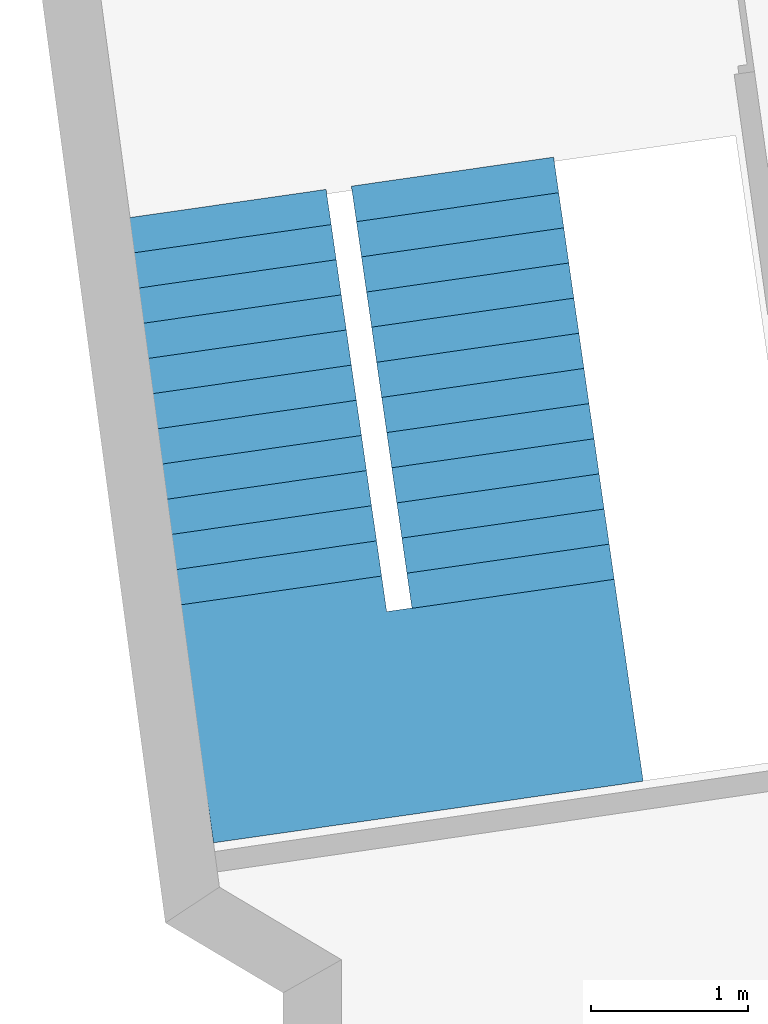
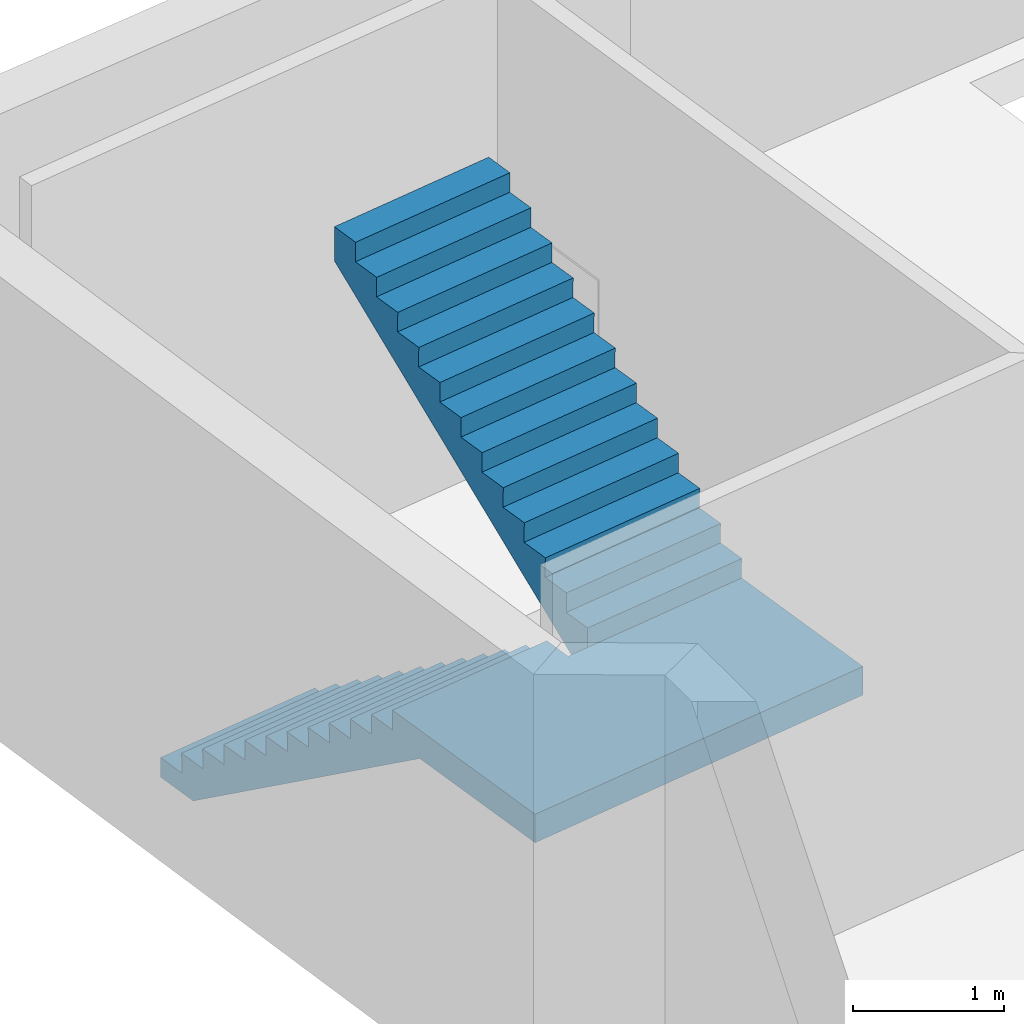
# One storey, part 8 of 9: 1 stair.
"""IFC2X3 building model written with IfcOpenShell, lengths in metres."""

import ifcopenshell
import ifcopenshell.guid

model = None  # the IFC model being written
_history = None  # IfcOwnerHistory: only IFC2X3 demands one
_inside = {}  # id of a spatial element -> (the spatial element, [elements in it])
_under = {}  # id of a project, library or spatial element -> (it, [spatial elements below it])
_declared = {}  # id of a project -> (the project, [libraries it declares])
_typed = {}  # id of a type object -> (the type object, [elements of that type])
_made_of = {}  # id of a material, layer set ... -> (it, [elements and type objects made of it])


def new_model(schema):
    """Start an empty IFC model of exactly this schema.

    Asked for "IFC4X3", IfcOpenShell would pick the latest addendum, in which some entities
    have other attributes; the version numbers below select the first issue.
    IFC2X3 requires an IfcOwnerHistory on every rooted entity: one is made here for all.
    """
    global model, _history
    if schema == "IFC4X3":
        model = ifcopenshell.file(schema_version=(4, 3, 0, 0))
    else:
        model = ifcopenshell.file(schema=schema)
    _inside.clear()
    _under.clear()
    _declared.clear()
    _typed.clear()
    _made_of.clear()
    _history = None
    if model.schema == "IFC2X3":
        org = make("IfcOrganization", Name="unknown")
        user = make(
            "IfcPersonAndOrganization",
            ThePerson=make("IfcPerson", FamilyName="unknown"),
            TheOrganization=org,
        )
        app = make(
            "IfcApplication",
            ApplicationDeveloper=org,
            Version="unknown",
            ApplicationFullName="unknown",
            ApplicationIdentifier="unknown",
        )
        _history = make(
            "IfcOwnerHistory",
            OwningUser=user,
            OwningApplication=app,
            ChangeAction="ADDED",
            CreationDate=0,
        )
    return model


def make(cls, **values):
    """One entity of the class cls with the attributes given. An attribute that is None is left unset."""
    return model.create_entity(
        cls, **{name: value for name, value in values.items() if value is not None}
    )


def entity(cls, *values):
    """Any entity or typed value of the class cls, its attributes in the order of the schema. None: left unset."""
    e = model.create_entity(cls)
    for i, value in enumerate(values):
        if value is not None:
            e[i] = value
    return e


def rooted(cls, **values):
    """An entity with a GlobalId (a new one), such as an element, a storey or a relation."""
    return make(cls, GlobalId=ifcopenshell.guid.new(), OwnerHistory=_history, **values)


def si_unit(unit_type, name, prefix=None):
    """IfcSIUnit, for example si_unit("LENGTHUNIT", "METRE", prefix="MILLI")."""
    return make("IfcSIUnit", UnitType=unit_type, Prefix=prefix, Name=name)


def converted_unit(unit_type, name, factor, base, dimensions=None, offset=None):
    """IfcConversionBasedUnit, such as the inch: factor (a typed value) times the base unit."""
    return make(
        "IfcConversionBasedUnit"
        if offset is None
        else "IfcConversionBasedUnitWithOffset",
        ConversionOffset=offset,
        Dimensions=None
        if dimensions is None
        else entity("IfcDimensionalExponents", *dimensions),
        UnitType=unit_type,
        Name=name,
        ConversionFactor=make(
            "IfcMeasureWithUnit", ValueComponent=factor, UnitComponent=base
        ),
    )


def money_unit(currency):
    """IfcMonetaryUnit."""
    return make("IfcMonetaryUnit", Currency=currency)


def assignment(units):
    """IfcUnitAssignment: the units of a project."""
    return None if units is None else make("IfcUnitAssignment", Units=units)


def point(xyz):
    """IfcCartesianPoint."""
    return None if xyz is None else make("IfcCartesianPoint", Coordinates=xyz)


def direction(xyz):
    """IfcDirection."""
    return None if xyz is None else make("IfcDirection", DirectionRatios=xyz)


def frame(location, z_axis=None, x_axis=None):
    """IfcAxis2Placement3D, a coordinate frame: its origin and axes. An axis left out is left unset."""
    return make(
        "IfcAxis2Placement3D",
        Location=point(location),
        Axis=direction(z_axis),
        RefDirection=direction(x_axis),
    )


def origin_with_axes():
    """The frame at (0, 0, 0) with the z axis (0, 0, 1) and the x axis (1, 0, 0) written out."""
    return frame((0.0, 0.0, 0.0), z_axis=(0.0, 0.0, 1.0), x_axis=(1.0, 0.0, 0.0))


def place(relative_to, where):
    """IfcLocalPlacement: puts the frame where relative to a parent placement (None: the world)."""
    return make(
        "IfcLocalPlacement", PlacementRelTo=relative_to, RelativePlacement=where
    )


def context(
    kind, dimensions, precision=None, world=None, true_north=None, identifier=None
):
    """IfcGeometricRepresentationContext, for example the 3D "Model" context."""
    return make(
        "IfcGeometricRepresentationContext",
        ContextIdentifier=identifier,
        ContextType=kind,
        CoordinateSpaceDimension=dimensions,
        Precision=precision,
        WorldCoordinateSystem=world,
        TrueNorth=true_north,
    )


def subcontext(parent, identifier, kind, view, scale=None):
    """IfcGeometricRepresentationSubContext, for example "Body" below "Model"."""
    return make(
        "IfcGeometricRepresentationSubContext",
        ContextIdentifier=identifier,
        ContextType=kind,
        ParentContext=parent,
        TargetScale=scale,
        TargetView=view,
    )


def project(units=None, contexts=None):
    """IfcProject with its units and contexts."""
    return rooted(
        "IfcProject",
        Name="project",
        RepresentationContexts=contexts,
        UnitsInContext=assignment(units),
    )


def spatial(cls, under=None, at=None, **own):
    """A site, building, storey or space (cls), placed at a placement, below another one or the project."""
    s = rooted(cls, ObjectPlacement=at, **own)
    if under is not None:
        _under.setdefault(under.id(), (under, []))[1].append(s)
    return s


def faces_of(points, faces, orient=None, outer=None):
    """IfcFace entities. A face is a list of loops; a loop is a list of indices into points, from 0.

    orient and outer hold one flag for each loop. By default every Orientation is true, the
    first loop of a face is its IfcFaceOuterBound and the others are IfcFaceBound.
    """
    made = []
    for i, loops in enumerate(faces):
        bounds = []
        for j, loop in enumerate(loops):
            is_outer = j == 0 if outer is None else outer[i][j]
            bounds.append(
                make(
                    "IfcFaceOuterBound" if is_outer else "IfcFaceBound",
                    Bound=make("IfcPolyLoop", Polygon=[points[k] for k in loop]),
                    Orientation=True if orient is None else orient[i][j],
                )
            )
        made.append(make("IfcFace", Bounds=bounds))
    return made


def faceted_brep(points, faces, orient=None, outer=None, voids=None):
    """IfcFacetedBrep: a solid bounded by flat faces; with voids (closed shells), ...WithVoids."""
    shared = [point(p) for p in points]
    hull = make("IfcClosedShell", CfsFaces=faces_of(shared, faces, orient, outer))
    if voids is None:
        return make("IfcFacetedBrep", Outer=hull)
    return make(
        "IfcFacetedBrepWithVoids",
        Outer=hull,
        Voids=[
            make(cls, CfsFaces=faces_of(shared, fs, o, b)) for cls, fs, o, b in voids
        ],
    )


def shape(context_of_items, identifier, shape_type, items):
    """IfcShapeRepresentation: the items that make up one representation, for example the "Body"."""
    return make(
        "IfcShapeRepresentation",
        ContextOfItems=context_of_items,
        RepresentationIdentifier=identifier,
        RepresentationType=shape_type,
        Items=items,
    )


def material(Name=None, Category=None):
    """IfcMaterial."""
    return make("IfcMaterial", Name=Name, Category=Category)


def made_of(thing, what):
    """Note that an element or type object is made of a material, layer set ...; save() writes the relation."""
    if what is not None:
        _made_of.setdefault(what.id(), (what, []))[1].append(thing)
    return thing


def element(
    cls,
    number,
    at=None,
    inside=None,
    cuts=None,
    type_object=None,
    material=None,
    context=None,
    identifier="Body",
    shape_type=None,
    held_by="IfcProductDefinitionShape",
    body=None,
    shapes=None,
    **own,
):
    """One element of the class cls, such as IfcWall. Its Tag is "e" and its number.

    at: its placement. inside: the storey or other place that contains it. cuts: it is an
    opening in that element (IfcRelVoidsElement). A single representation is given by context,
    identifier, shape_type and body (its items); several are given by shapes. held_by: the class
    of the entity that holds the representations. save() writes the other relations.
    """
    e = rooted(cls, Tag="e%d" % number, ObjectPlacement=at, **own)
    if body is not None:
        shapes = [shape(context, identifier, shape_type, body)]
    if shapes is not None:
        e.Representation = make(held_by, Representations=shapes)
    if inside is not None:
        _inside.setdefault(inside.id(), (inside, []))[1].append(e)
    if cuts is not None:
        rooted(
            "IfcRelVoidsElement", RelatingBuildingElement=cuts, RelatedOpeningElement=e
        )
    if type_object is not None:
        _typed.setdefault(type_object.id(), (type_object, []))[1].append(e)
    return made_of(e, material)


def aggregate(whole, parts):
    """IfcRelAggregates: a whole, such as a stair, and the parts it consists of."""
    return rooted("IfcRelAggregates", RelatingObject=whole, RelatedObjects=parts)


def save(model, path):
    """Write the relations noted so far, then the file.

    IfcRelAggregates (storeys below a building ...), IfcRelContainedInSpatialStructure (elements
    in a storey), IfcRelDefinesByType, IfcRelAssociatesMaterial and IfcRelDeclares: one each for
    every whole, place, type object, material and project.
    """
    for whole, parts in _under.values():
        aggregate(whole, parts)
    for where, things in _inside.values():
        rooted(
            "IfcRelContainedInSpatialStructure",
            RelatedElements=things,
            RelatingStructure=where,
        )
    for kind, things in _typed.values():
        rooted("IfcRelDefinesByType", RelatedObjects=things, RelatingType=kind)
    for what, things in _made_of.values():
        rooted("IfcRelAssociatesMaterial", RelatedObjects=things, RelatingMaterial=what)
    for by, libraries in _declared.values():
        rooted("IfcRelDeclares", RelatingContext=by, RelatedDefinitions=libraries)
    model.write(path)


model = new_model("IFC2X3")

# Units and contexts
model_context = context("Model", 3, precision=1e-05, world=origin_with_axes(), true_north=direction((0.0, 1.0)))
body_context = subcontext(model_context, "Body", "Model", "MODEL_VIEW")
ifc_project = project(units=[si_unit("LENGTHUNIT", "METRE"), si_unit("AREAUNIT", "SQUARE_METRE"), si_unit("VOLUMEUNIT", "CUBIC_METRE"), converted_unit("PLANEANGLEUNIT", "DEGREE", entity("IfcPlaneAngleMeasure", 0.0174532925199), si_unit("PLANEANGLEUNIT", "RADIAN"), dimensions=[0, 0, 0, 0, 0, 0, 0]), si_unit("SOLIDANGLEUNIT", "STERADIAN"), money_unit("EUR"), converted_unit("TIMEUNIT", "Year", entity("IfcTimeMeasure", 31556926.0), si_unit("TIMEUNIT", "SECOND"), dimensions=[0, 0, 0, 0, 0, 0, 0]), si_unit("MASSUNIT", "GRAM"), si_unit("THERMODYNAMICTEMPERATUREUNIT", "DEGREE_CELSIUS"), si_unit("LUMINOUSINTENSITYUNIT", "LUMEN")], contexts=[model_context])

# Site, building, storey
site_placement = place(None, origin_with_axes())
site = spatial("IfcSite", under=ifc_project, at=site_placement, Name="Undefined", CompositionType="ELEMENT")
building_placement = place(site_placement, origin_with_axes())
building = spatial("IfcBuilding", under=site, at=building_placement, Name="Undefined", CompositionType="ELEMENT")
storey_placement = place(building_placement, frame((0.0, 0.0, 13.45), z_axis=(0.0, 0.0, 1.0), x_axis=(1.0, 0.0, 0.0)))
storey = spatial("IfcBuildingStorey", under=building, at=storey_placement, Name="R+2", CompositionType="ELEMENT", Elevation=13.45)

# Stair
ifc_material = material(Name="Concrete Block")
stair_placement = place(storey_placement, frame((-1.38089637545, 23.3565313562, 0.0), z_axis=(0.0, 0.0, 1.0), x_axis=(0.142095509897, -0.989852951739, 0.0)))
element("IfcStair", 1, at=stair_placement, inside=storey, material=ifc_material, Name="Stair_01", ObjectType="STAIR", ShapeType="NOTDEFINED", context=body_context, shape_type="Brep", body=[
    faceted_brep([(0.347393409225, 0.0, 0.0), (0.347393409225, 1.29732646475, 0.0), (2.76888631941, 1.29732646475, 1.675), (2.76888631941, 0.0, 1.675), (0.02, 0.0, 0.0), (0.02, 1.29732646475, 0.0), (0.02, 1.29732646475, 0.12875), (0.245461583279, 1.29732646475, 0.12875), (0.245461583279, 1.29732646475, 0.2875), (0.470923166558, 1.29732646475, 0.2875), (0.470923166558, 1.29732646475, 0.44625), (0.696384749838, 1.29732646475, 0.44625), (0.696384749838, 1.29732646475, 0.605), (0.921846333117, 1.29732646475, 0.605), (0.921846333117, 1.29732646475, 0.76375), (1.1473079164, 1.29732646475, 0.76375), (1.1473079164, 1.29732646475, 0.9225), (1.37276949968, 1.29732646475, 0.9225), (1.37276949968, 1.29732646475, 1.08125), (1.59823108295, 1.29732646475, 1.08125), (1.59823108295, 1.29732646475, 1.24), (1.82369266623, 1.29732646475, 1.24), (1.82369266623, 1.29732646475, 1.39875), (2.04915424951, 1.29732646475, 1.39875), (2.04915424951, 1.29732646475, 1.5575), (2.27461583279, 1.29732646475, 1.5575), (2.27461583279, 1.29732646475, 1.71625), (2.50007741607, 1.29732646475, 1.71625), (2.50007741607, 1.29732646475, 1.875), (2.72553899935, 1.29732646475, 1.875), (4.0028654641, 1.29732646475, 1.875), (4.0028654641, 1.29732646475, 1.675), (4.0028654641, 0.0, 1.675), (4.0028654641, 0.0, 1.875), (2.72553899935, 0.0, 1.875), (2.50007741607, 0.0, 1.875), (2.50007741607, 0.0, 1.71625), (2.27461583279, 0.0, 1.71625), (2.27461583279, 0.0, 1.5575), (2.04915424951, 0.0, 1.5575), (2.04915424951, 0.0, 1.39875), (1.82369266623, 0.0, 1.39875), (1.82369266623, 0.0, 1.24), (1.59823108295, 0.0, 1.24), (1.59823108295, 0.0, 1.08125), (1.37276949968, 0.0, 1.08125), (1.37276949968, 0.0, 0.9225), (1.1473079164, 0.0, 0.9225), (1.1473079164, 0.0, 0.76375), (0.921846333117, 0.0, 0.76375), (0.921846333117, 0.0, 0.605), (0.696384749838, 0.0, 0.605), (0.696384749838, 0.0, 0.44625), (0.470923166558, 0.0, 0.44625), (0.470923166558, 0.0, 0.2875), (0.245461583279, 0.0, 0.2875), (0.245461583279, 0.0, 0.12875), (0.02, 0.0, 0.12875)], [[[0, 1, 2, 3]], [[4, 5, 1, 0]], [[1, 5, 6, 7, 8, 9, 10, 11, 12, 13, 14, 15, 16, 17, 18, 19, 20, 21, 22, 23, 24, 25, 26, 27, 28, 29, 30, 31, 2]], [[3, 2, 31, 32]], [[0, 3, 32, 33, 34, 35, 36, 37, 38, 39, 40, 41, 42, 43, 44, 45, 46, 47, 48, 49, 50, 51, 52, 53, 54, 55, 56, 57, 4]], [[57, 6, 5, 4]], [[56, 7, 6, 57]], [[55, 8, 7, 56]], [[54, 9, 8, 55]], [[53, 10, 9, 54]], [[52, 11, 10, 53]], [[51, 12, 11, 52]], [[50, 13, 12, 51]], [[49, 14, 13, 50]], [[48, 15, 14, 49]], [[47, 16, 15, 48]], [[46, 17, 16, 47]], [[45, 18, 17, 46]], [[44, 19, 18, 45]], [[43, 20, 19, 44]], [[42, 21, 20, 43]], [[41, 22, 21, 42]], [[40, 23, 22, 41]], [[39, 24, 23, 40]], [[38, 25, 24, 39]], [[37, 26, 25, 38]], [[36, 27, 26, 37]], [[35, 28, 27, 36]], [[34, 29, 28, 35]], [[33, 30, 29, 34]], [[32, 31, 30, 33]]]),
    faceted_brep([(2.70553899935, 1.29732646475, 1.875), (2.70553899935, 1.45900763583, 1.875), (2.70553899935, 1.45900763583, 1.675), (2.70553899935, 1.29732646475, 1.675), (4.0028654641, 1.29732646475, 1.875), (4.0028654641, 1.45900763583, 1.875), (4.0028654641, 1.45900763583, 1.675), (2.76888631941, 1.45900763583, 1.675), (2.76888631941, 1.29732646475, 1.675), (4.0028654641, 1.29732646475, 1.675)], [[[0, 1, 2, 3]], [[4, 5, 1, 0]], [[1, 5, 6, 7, 2]], [[3, 2, 7, 8]], [[0, 3, 8, 9, 4]], [[9, 6, 5, 4]], [[8, 7, 6, 9]]]),
    faceted_brep([(2.70553899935, 1.45900763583, 1.875), (2.70553899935, 2.75633410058, 1.875), (2.70553899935, 2.75633410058, 1.675), (2.70553899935, 1.45900763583, 1.675), (4.0028654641, 1.45900763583, 1.875), (4.0028654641, 2.75633410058, 1.875), (4.0028654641, 2.75633410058, 1.675), (4.0028654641, 1.45900763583, 1.675)], [[[0, 1, 2, 3]], [[4, 5, 1, 0]], [[1, 5, 6, 2]], [[3, 2, 6, 7]], [[0, 3, 7, 4]], [[7, 6, 5, 4]]]),
    faceted_brep([(2.70553899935, 1.45900763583, 1.675), (2.6421916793, 1.45900763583, 1.675), (2.6421916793, 2.75633410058, 1.675), (2.70553899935, 2.75633410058, 1.675), (2.70553899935, 1.45900763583, 1.875), (2.68553899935, 1.45900763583, 1.875), (2.68553899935, 1.45900763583, 2.03375), (2.46007741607, 1.45900763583, 2.03375), (2.46007741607, 1.45900763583, 2.1925), (2.23461583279, 1.45900763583, 2.1925), (2.23461583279, 1.45900763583, 2.35125), (2.00915424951, 1.45900763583, 2.35125), (2.00915424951, 1.45900763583, 2.51), (1.78369266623, 1.45900763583, 2.51), (1.78369266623, 1.45900763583, 2.66875), (1.55823108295, 1.45900763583, 2.66875), (1.55823108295, 1.45900763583, 2.8275), (1.33276949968, 1.45900763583, 2.8275), (1.33276949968, 1.45900763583, 2.98625), (1.1073079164, 1.45900763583, 2.98625), (1.1073079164, 1.45900763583, 3.145), (0.881846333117, 1.45900763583, 3.145), (0.881846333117, 1.45900763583, 3.30375), (0.656384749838, 1.45900763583, 3.30375), (0.656384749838, 1.45900763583, 3.4625), (0.430923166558, 1.45900763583, 3.4625), (0.430923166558, 1.45900763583, 3.62125), (0.205461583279, 1.45900763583, 3.62125), (0.205461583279, 1.45900763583, 3.78), (0.0, 1.45900763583, 3.78), (0.0, 1.45900763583, 3.53539644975), (0.0, 2.75633410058, 3.53539644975), (0.0, 2.75633410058, 3.78), (0.205461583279, 2.75633410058, 3.78), (0.205461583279, 2.75633410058, 3.62125), (0.430923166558, 2.75633410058, 3.62125), (0.430923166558, 2.75633410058, 3.4625), (0.656384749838, 2.75633410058, 3.4625), (0.656384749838, 2.75633410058, 3.30375), (0.881846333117, 2.75633410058, 3.30375), (0.881846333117, 2.75633410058, 3.145), (1.1073079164, 2.75633410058, 3.145), (1.1073079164, 2.75633410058, 2.98625), (1.33276949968, 2.75633410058, 2.98625), (1.33276949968, 2.75633410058, 2.8275), (1.55823108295, 2.75633410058, 2.8275), (1.55823108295, 2.75633410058, 2.66875), (1.78369266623, 2.75633410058, 2.66875), (1.78369266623, 2.75633410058, 2.51), (2.00915424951, 2.75633410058, 2.51), (2.00915424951, 2.75633410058, 2.35125), (2.23461583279, 2.75633410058, 2.35125), (2.23461583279, 2.75633410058, 2.1925), (2.46007741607, 2.75633410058, 2.1925), (2.46007741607, 2.75633410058, 2.03375), (2.68553899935, 2.75633410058, 2.03375), (2.68553899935, 2.75633410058, 1.875), (2.70553899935, 2.75633410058, 1.875)], [[[0, 1, 2, 3]], [[0, 4, 5, 6, 7, 8, 9, 10, 11, 12, 13, 14, 15, 16, 17, 18, 19, 20, 21, 22, 23, 24, 25, 26, 27, 28, 29, 30, 1]], [[1, 30, 31, 2]], [[3, 2, 31, 32, 33, 34, 35, 36, 37, 38, 39, 40, 41, 42, 43, 44, 45, 46, 47, 48, 49, 50, 51, 52, 53, 54, 55, 56, 57]], [[4, 0, 3, 57]], [[5, 4, 57, 56]], [[6, 5, 56, 55]], [[7, 6, 55, 54]], [[8, 7, 54, 53]], [[9, 8, 53, 52]], [[10, 9, 52, 51]], [[11, 10, 51, 50]], [[12, 11, 50, 49]], [[13, 12, 49, 48]], [[14, 13, 48, 47]], [[15, 14, 47, 46]], [[16, 15, 46, 45]], [[17, 16, 45, 44]], [[18, 17, 44, 43]], [[19, 18, 43, 42]], [[20, 19, 42, 41]], [[21, 20, 41, 40]], [[22, 21, 40, 39]], [[23, 22, 39, 38]], [[24, 23, 38, 37]], [[25, 24, 37, 36]], [[26, 25, 36, 35]], [[27, 26, 35, 34]], [[28, 27, 34, 33]], [[29, 28, 33, 32]], [[30, 29, 32, 31]]]),
    faceted_brep([(0.0, 0.0, 0.0), (0.0, 1.29732646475, 0.0), (0.02, 1.29732646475, 0.0), (0.02, 0.0, 0.0), (0.0, 0.0, 0.12875), (0.0, 1.29732646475, 0.12875), (0.02, 1.29732646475, 0.12875), (0.02, 0.0, 0.12875)], [[[0, 1, 2, 3]], [[4, 5, 1, 0]], [[1, 5, 6, 2]], [[3, 2, 6, 7]], [[0, 3, 7, 4]], [[7, 6, 5, 4]]]),
    faceted_brep([(0.225461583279, 0.0, 0.15875), (0.225461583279, 1.29732646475, 0.15875), (0.245461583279, 1.29732646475, 0.15875), (0.245461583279, 0.0, 0.15875), (0.225461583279, 0.0, 0.2875), (0.225461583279, 1.29732646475, 0.2875), (0.245461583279, 1.29732646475, 0.2875), (0.245461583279, 0.0, 0.2875)], [[[0, 1, 2, 3]], [[4, 5, 1, 0]], [[1, 5, 6, 2]], [[3, 2, 6, 7]], [[0, 3, 7, 4]], [[7, 6, 5, 4]]]),
    faceted_brep([(0.450923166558, 0.0, 0.3175), (0.450923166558, 1.29732646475, 0.3175), (0.470923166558, 1.29732646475, 0.3175), (0.470923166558, 0.0, 0.3175), (0.450923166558, 0.0, 0.44625), (0.450923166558, 1.29732646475, 0.44625), (0.470923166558, 1.29732646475, 0.44625), (0.470923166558, 0.0, 0.44625)], [[[0, 1, 2, 3]], [[4, 5, 1, 0]], [[1, 5, 6, 2]], [[3, 2, 6, 7]], [[0, 3, 7, 4]], [[7, 6, 5, 4]]]),
    faceted_brep([(0.676384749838, 0.0, 0.47625), (0.676384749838, 1.29732646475, 0.47625), (0.696384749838, 1.29732646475, 0.47625), (0.696384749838, 0.0, 0.47625), (0.676384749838, 0.0, 0.605), (0.676384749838, 1.29732646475, 0.605), (0.696384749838, 1.29732646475, 0.605), (0.696384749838, 0.0, 0.605)], [[[0, 1, 2, 3]], [[4, 5, 1, 0]], [[1, 5, 6, 2]], [[3, 2, 6, 7]], [[0, 3, 7, 4]], [[7, 6, 5, 4]]]),
    faceted_brep([(0.901846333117, 0.0, 0.635), (0.901846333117, 1.29732646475, 0.635), (0.921846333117, 1.29732646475, 0.635), (0.921846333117, 0.0, 0.635), (0.901846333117, 0.0, 0.76375), (0.901846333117, 1.29732646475, 0.76375), (0.921846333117, 1.29732646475, 0.76375), (0.921846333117, 0.0, 0.76375)], [[[0, 1, 2, 3]], [[4, 5, 1, 0]], [[1, 5, 6, 2]], [[3, 2, 6, 7]], [[0, 3, 7, 4]], [[7, 6, 5, 4]]]),
    faceted_brep([(1.1273079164, 0.0, 0.79375), (1.1273079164, 1.29732646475, 0.79375), (1.1473079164, 1.29732646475, 0.79375), (1.1473079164, 0.0, 0.79375), (1.1273079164, 0.0, 0.9225), (1.1273079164, 1.29732646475, 0.9225), (1.1473079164, 1.29732646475, 0.9225), (1.1473079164, 0.0, 0.9225)], [[[0, 1, 2, 3]], [[4, 5, 1, 0]], [[1, 5, 6, 2]], [[3, 2, 6, 7]], [[0, 3, 7, 4]], [[7, 6, 5, 4]]]),
    faceted_brep([(1.35276949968, 0.0, 0.9525), (1.35276949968, 1.29732646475, 0.9525), (1.37276949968, 1.29732646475, 0.9525), (1.37276949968, 0.0, 0.9525), (1.35276949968, 0.0, 1.08125), (1.35276949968, 1.29732646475, 1.08125), (1.37276949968, 1.29732646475, 1.08125), (1.37276949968, 0.0, 1.08125)], [[[0, 1, 2, 3]], [[4, 5, 1, 0]], [[1, 5, 6, 2]], [[3, 2, 6, 7]], [[0, 3, 7, 4]], [[7, 6, 5, 4]]]),
    faceted_brep([(1.57823108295, 0.0, 1.11125), (1.57823108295, 1.29732646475, 1.11125), (1.59823108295, 1.29732646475, 1.11125), (1.59823108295, 0.0, 1.11125), (1.57823108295, 0.0, 1.24), (1.57823108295, 1.29732646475, 1.24), (1.59823108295, 1.29732646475, 1.24), (1.59823108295, 0.0, 1.24)], [[[0, 1, 2, 3]], [[4, 5, 1, 0]], [[1, 5, 6, 2]], [[3, 2, 6, 7]], [[0, 3, 7, 4]], [[7, 6, 5, 4]]]),
    faceted_brep([(1.80369266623, 0.0, 1.27), (1.80369266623, 1.29732646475, 1.27), (1.82369266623, 1.29732646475, 1.27), (1.82369266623, 0.0, 1.27), (1.80369266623, 0.0, 1.39875), (1.80369266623, 1.29732646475, 1.39875), (1.82369266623, 1.29732646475, 1.39875), (1.82369266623, 0.0, 1.39875)], [[[0, 1, 2, 3]], [[4, 5, 1, 0]], [[1, 5, 6, 2]], [[3, 2, 6, 7]], [[0, 3, 7, 4]], [[7, 6, 5, 4]]]),
    faceted_brep([(2.02915424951, 0.0, 1.42875), (2.02915424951, 1.29732646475, 1.42875), (2.04915424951, 1.29732646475, 1.42875), (2.04915424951, 0.0, 1.42875), (2.02915424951, 0.0, 1.5575), (2.02915424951, 1.29732646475, 1.5575), (2.04915424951, 1.29732646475, 1.5575), (2.04915424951, 0.0, 1.5575)], [[[0, 1, 2, 3]], [[4, 5, 1, 0]], [[1, 5, 6, 2]], [[3, 2, 6, 7]], [[0, 3, 7, 4]], [[7, 6, 5, 4]]]),
    faceted_brep([(2.25461583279, 0.0, 1.5875), (2.25461583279, 1.29732646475, 1.5875), (2.27461583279, 1.29732646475, 1.5875), (2.27461583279, 0.0, 1.5875), (2.25461583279, 0.0, 1.71625), (2.25461583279, 1.29732646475, 1.71625), (2.27461583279, 1.29732646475, 1.71625), (2.27461583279, 0.0, 1.71625)], [[[0, 1, 2, 3]], [[4, 5, 1, 0]], [[1, 5, 6, 2]], [[3, 2, 6, 7]], [[0, 3, 7, 4]], [[7, 6, 5, 4]]]),
    faceted_brep([(2.48007741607, 0.0, 1.74625), (2.48007741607, 1.29732646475, 1.74625), (2.50007741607, 1.29732646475, 1.74625), (2.50007741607, 0.0, 1.74625), (2.48007741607, 0.0, 1.875), (2.48007741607, 1.29732646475, 1.875), (2.50007741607, 1.29732646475, 1.875), (2.50007741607, 0.0, 1.875)], [[[0, 1, 2, 3]], [[4, 5, 1, 0]], [[1, 5, 6, 2]], [[3, 2, 6, 7]], [[0, 3, 7, 4]], [[7, 6, 5, 4]]]),
    faceted_brep([(2.70553899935, 1.45900763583, 1.905), (2.68553899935, 1.45900763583, 1.905), (2.68553899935, 2.75633410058, 1.905), (2.70553899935, 2.75633410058, 1.905), (2.70553899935, 1.45900763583, 2.03375), (2.68553899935, 1.45900763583, 2.03375), (2.68553899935, 2.75633410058, 2.03375), (2.70553899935, 2.75633410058, 2.03375)], [[[0, 1, 2, 3]], [[0, 4, 5, 1]], [[1, 5, 6, 2]], [[3, 2, 6, 7]], [[4, 0, 3, 7]], [[5, 4, 7, 6]]]),
    faceted_brep([(2.48007741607, 1.45900763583, 2.06375), (2.46007741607, 1.45900763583, 2.06375), (2.46007741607, 2.75633410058, 2.06375), (2.48007741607, 2.75633410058, 2.06375), (2.48007741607, 1.45900763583, 2.1925), (2.46007741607, 1.45900763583, 2.1925), (2.46007741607, 2.75633410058, 2.1925), (2.48007741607, 2.75633410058, 2.1925)], [[[0, 1, 2, 3]], [[0, 4, 5, 1]], [[1, 5, 6, 2]], [[3, 2, 6, 7]], [[4, 0, 3, 7]], [[5, 4, 7, 6]]]),
    faceted_brep([(2.25461583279, 1.45900763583, 2.2225), (2.23461583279, 1.45900763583, 2.2225), (2.23461583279, 2.75633410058, 2.2225), (2.25461583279, 2.75633410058, 2.2225), (2.25461583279, 1.45900763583, 2.35125), (2.23461583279, 1.45900763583, 2.35125), (2.23461583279, 2.75633410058, 2.35125), (2.25461583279, 2.75633410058, 2.35125)], [[[0, 1, 2, 3]], [[0, 4, 5, 1]], [[1, 5, 6, 2]], [[3, 2, 6, 7]], [[4, 0, 3, 7]], [[5, 4, 7, 6]]]),
    faceted_brep([(2.02915424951, 1.45900763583, 2.38125), (2.00915424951, 1.45900763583, 2.38125), (2.00915424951, 2.75633410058, 2.38125), (2.02915424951, 2.75633410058, 2.38125), (2.02915424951, 1.45900763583, 2.51), (2.00915424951, 1.45900763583, 2.51), (2.00915424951, 2.75633410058, 2.51), (2.02915424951, 2.75633410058, 2.51)], [[[0, 1, 2, 3]], [[0, 4, 5, 1]], [[1, 5, 6, 2]], [[3, 2, 6, 7]], [[4, 0, 3, 7]], [[5, 4, 7, 6]]]),
    faceted_brep([(1.80369266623, 1.45900763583, 2.54), (1.78369266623, 1.45900763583, 2.54), (1.78369266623, 2.75633410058, 2.54), (1.80369266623, 2.75633410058, 2.54), (1.80369266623, 1.45900763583, 2.66875), (1.78369266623, 1.45900763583, 2.66875), (1.78369266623, 2.75633410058, 2.66875), (1.80369266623, 2.75633410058, 2.66875)], [[[0, 1, 2, 3]], [[0, 4, 5, 1]], [[1, 5, 6, 2]], [[3, 2, 6, 7]], [[4, 0, 3, 7]], [[5, 4, 7, 6]]]),
    faceted_brep([(1.57823108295, 1.45900763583, 2.69875), (1.55823108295, 1.45900763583, 2.69875), (1.55823108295, 2.75633410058, 2.69875), (1.57823108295, 2.75633410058, 2.69875), (1.57823108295, 1.45900763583, 2.8275), (1.55823108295, 1.45900763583, 2.8275), (1.55823108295, 2.75633410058, 2.8275), (1.57823108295, 2.75633410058, 2.8275)], [[[0, 1, 2, 3]], [[0, 4, 5, 1]], [[1, 5, 6, 2]], [[3, 2, 6, 7]], [[4, 0, 3, 7]], [[5, 4, 7, 6]]]),
    faceted_brep([(1.35276949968, 1.45900763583, 2.8575), (1.33276949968, 1.45900763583, 2.8575), (1.33276949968, 2.75633410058, 2.8575), (1.35276949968, 2.75633410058, 2.8575), (1.35276949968, 1.45900763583, 2.98625), (1.33276949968, 1.45900763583, 2.98625), (1.33276949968, 2.75633410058, 2.98625), (1.35276949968, 2.75633410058, 2.98625)], [[[0, 1, 2, 3]], [[0, 4, 5, 1]], [[1, 5, 6, 2]], [[3, 2, 6, 7]], [[4, 0, 3, 7]], [[5, 4, 7, 6]]]),
    faceted_brep([(1.1273079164, 1.45900763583, 3.01625), (1.1073079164, 1.45900763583, 3.01625), (1.1073079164, 2.75633410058, 3.01625), (1.1273079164, 2.75633410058, 3.01625), (1.1273079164, 1.45900763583, 3.145), (1.1073079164, 1.45900763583, 3.145), (1.1073079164, 2.75633410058, 3.145), (1.1273079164, 2.75633410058, 3.145)], [[[0, 1, 2, 3]], [[0, 4, 5, 1]], [[1, 5, 6, 2]], [[3, 2, 6, 7]], [[4, 0, 3, 7]], [[5, 4, 7, 6]]]),
    faceted_brep([(0.901846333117, 1.45900763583, 3.175), (0.881846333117, 1.45900763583, 3.175), (0.881846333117, 2.75633410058, 3.175), (0.901846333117, 2.75633410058, 3.175), (0.901846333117, 1.45900763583, 3.30375), (0.881846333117, 1.45900763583, 3.30375), (0.881846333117, 2.75633410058, 3.30375), (0.901846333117, 2.75633410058, 3.30375)], [[[0, 1, 2, 3]], [[0, 4, 5, 1]], [[1, 5, 6, 2]], [[3, 2, 6, 7]], [[4, 0, 3, 7]], [[5, 4, 7, 6]]]),
    faceted_brep([(0.676384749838, 1.45900763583, 3.33375), (0.656384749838, 1.45900763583, 3.33375), (0.656384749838, 2.75633410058, 3.33375), (0.676384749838, 2.75633410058, 3.33375), (0.676384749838, 1.45900763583, 3.4625), (0.656384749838, 1.45900763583, 3.4625), (0.656384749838, 2.75633410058, 3.4625), (0.676384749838, 2.75633410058, 3.4625)], [[[0, 1, 2, 3]], [[0, 4, 5, 1]], [[1, 5, 6, 2]], [[3, 2, 6, 7]], [[4, 0, 3, 7]], [[5, 4, 7, 6]]]),
    faceted_brep([(0.450923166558, 1.45900763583, 3.4925), (0.430923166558, 1.45900763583, 3.4925), (0.430923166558, 2.75633410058, 3.4925), (0.450923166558, 2.75633410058, 3.4925), (0.450923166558, 1.45900763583, 3.62125), (0.430923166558, 1.45900763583, 3.62125), (0.430923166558, 2.75633410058, 3.62125), (0.450923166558, 2.75633410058, 3.62125)], [[[0, 1, 2, 3]], [[0, 4, 5, 1]], [[1, 5, 6, 2]], [[3, 2, 6, 7]], [[4, 0, 3, 7]], [[5, 4, 7, 6]]]),
    faceted_brep([(0.225461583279, 1.45900763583, 3.65125), (0.205461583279, 1.45900763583, 3.65125), (0.205461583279, 2.75633410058, 3.65125), (0.225461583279, 2.75633410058, 3.65125), (0.225461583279, 1.45900763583, 3.78), (0.205461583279, 1.45900763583, 3.78), (0.205461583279, 2.75633410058, 3.78), (0.225461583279, 2.75633410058, 3.78)], [[[0, 1, 2, 3]], [[0, 4, 5, 1]], [[1, 5, 6, 2]], [[3, 2, 6, 7]], [[4, 0, 3, 7]], [[5, 4, 7, 6]]]),
    faceted_brep([(-0.0025, 0.0, 0.12875), (-0.0025, 1.29732646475, 0.12875), (0.245461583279, 1.29732646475, 0.12875), (0.245461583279, 0.0, 0.12875), (-0.0025, 0.0, 0.15875), (-0.0025, 1.29732646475, 0.15875), (0.245461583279, 1.29732646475, 0.15875), (0.245461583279, 0.0, 0.15875)], [[[0, 1, 2, 3]], [[4, 5, 1, 0]], [[1, 5, 6, 2]], [[3, 2, 6, 7]], [[0, 3, 7, 4]], [[7, 6, 5, 4]]]),
    faceted_brep([(0.222961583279, 0.0, 0.2875), (0.222961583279, 1.29732646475, 0.2875), (0.470923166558, 1.29732646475, 0.2875), (0.470923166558, 0.0, 0.2875), (0.222961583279, 0.0, 0.3175), (0.222961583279, 1.29732646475, 0.3175), (0.470923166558, 1.29732646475, 0.3175), (0.470923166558, 0.0, 0.3175)], [[[0, 1, 2, 3]], [[4, 5, 1, 0]], [[1, 5, 6, 2]], [[3, 2, 6, 7]], [[0, 3, 7, 4]], [[7, 6, 5, 4]]]),
    faceted_brep([(0.448423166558, 0.0, 0.44625), (0.448423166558, 1.29732646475, 0.44625), (0.696384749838, 1.29732646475, 0.44625), (0.696384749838, 0.0, 0.44625), (0.448423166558, 0.0, 0.47625), (0.448423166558, 1.29732646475, 0.47625), (0.696384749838, 1.29732646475, 0.47625), (0.696384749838, 0.0, 0.47625)], [[[0, 1, 2, 3]], [[4, 5, 1, 0]], [[1, 5, 6, 2]], [[3, 2, 6, 7]], [[0, 3, 7, 4]], [[7, 6, 5, 4]]]),
    faceted_brep([(0.673884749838, 0.0, 0.605), (0.673884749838, 1.29732646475, 0.605), (0.921846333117, 1.29732646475, 0.605), (0.921846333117, 0.0, 0.605), (0.673884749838, 0.0, 0.635), (0.673884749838, 1.29732646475, 0.635), (0.921846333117, 1.29732646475, 0.635), (0.921846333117, 0.0, 0.635)], [[[0, 1, 2, 3]], [[4, 5, 1, 0]], [[1, 5, 6, 2]], [[3, 2, 6, 7]], [[0, 3, 7, 4]], [[7, 6, 5, 4]]]),
    faceted_brep([(0.899346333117, 0.0, 0.76375), (0.899346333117, 1.29732646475, 0.76375), (1.1473079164, 1.29732646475, 0.76375), (1.1473079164, 0.0, 0.76375), (0.899346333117, 0.0, 0.79375), (0.899346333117, 1.29732646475, 0.79375), (1.1473079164, 1.29732646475, 0.79375), (1.1473079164, 0.0, 0.79375)], [[[0, 1, 2, 3]], [[4, 5, 1, 0]], [[1, 5, 6, 2]], [[3, 2, 6, 7]], [[0, 3, 7, 4]], [[7, 6, 5, 4]]]),
    faceted_brep([(1.1248079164, 0.0, 0.9225), (1.1248079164, 1.29732646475, 0.9225), (1.37276949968, 1.29732646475, 0.9225), (1.37276949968, 0.0, 0.9225), (1.1248079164, 0.0, 0.9525), (1.1248079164, 1.29732646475, 0.9525), (1.37276949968, 1.29732646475, 0.9525), (1.37276949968, 0.0, 0.9525)], [[[0, 1, 2, 3]], [[4, 5, 1, 0]], [[1, 5, 6, 2]], [[3, 2, 6, 7]], [[0, 3, 7, 4]], [[7, 6, 5, 4]]]),
    faceted_brep([(1.35026949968, 0.0, 1.08125), (1.35026949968, 1.29732646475, 1.08125), (1.59823108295, 1.29732646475, 1.08125), (1.59823108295, 0.0, 1.08125), (1.35026949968, 0.0, 1.11125), (1.35026949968, 1.29732646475, 1.11125), (1.59823108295, 1.29732646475, 1.11125), (1.59823108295, 0.0, 1.11125)], [[[0, 1, 2, 3]], [[4, 5, 1, 0]], [[1, 5, 6, 2]], [[3, 2, 6, 7]], [[0, 3, 7, 4]], [[7, 6, 5, 4]]]),
    faceted_brep([(1.57573108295, 0.0, 1.24), (1.57573108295, 1.29732646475, 1.24), (1.82369266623, 1.29732646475, 1.24), (1.82369266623, 0.0, 1.24), (1.57573108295, 0.0, 1.27), (1.57573108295, 1.29732646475, 1.27), (1.82369266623, 1.29732646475, 1.27), (1.82369266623, 0.0, 1.27)], [[[0, 1, 2, 3]], [[4, 5, 1, 0]], [[1, 5, 6, 2]], [[3, 2, 6, 7]], [[0, 3, 7, 4]], [[7, 6, 5, 4]]]),
    faceted_brep([(1.80119266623, 0.0, 1.39875), (1.80119266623, 1.29732646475, 1.39875), (2.04915424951, 1.29732646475, 1.39875), (2.04915424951, 0.0, 1.39875), (1.80119266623, 0.0, 1.42875), (1.80119266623, 1.29732646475, 1.42875), (2.04915424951, 1.29732646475, 1.42875), (2.04915424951, 0.0, 1.42875)], [[[0, 1, 2, 3]], [[4, 5, 1, 0]], [[1, 5, 6, 2]], [[3, 2, 6, 7]], [[0, 3, 7, 4]], [[7, 6, 5, 4]]]),
    faceted_brep([(2.02665424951, 0.0, 1.5575), (2.02665424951, 1.29732646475, 1.5575), (2.27461583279, 1.29732646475, 1.5575), (2.27461583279, 0.0, 1.5575), (2.02665424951, 0.0, 1.5875), (2.02665424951, 1.29732646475, 1.5875), (2.27461583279, 1.29732646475, 1.5875), (2.27461583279, 0.0, 1.5875)], [[[0, 1, 2, 3]], [[4, 5, 1, 0]], [[1, 5, 6, 2]], [[3, 2, 6, 7]], [[0, 3, 7, 4]], [[7, 6, 5, 4]]]),
    faceted_brep([(2.25211583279, 0.0, 1.71625), (2.25211583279, 1.29732646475, 1.71625), (2.50007741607, 1.29732646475, 1.71625), (2.50007741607, 0.0, 1.71625), (2.25211583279, 0.0, 1.74625), (2.25211583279, 1.29732646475, 1.74625), (2.50007741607, 1.29732646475, 1.74625), (2.50007741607, 0.0, 1.74625)], [[[0, 1, 2, 3]], [[4, 5, 1, 0]], [[1, 5, 6, 2]], [[3, 2, 6, 7]], [[0, 3, 7, 4]], [[7, 6, 5, 4]]]),
    faceted_brep([(2.47757741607, 0.0, 1.875), (2.47757741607, 1.29732646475, 1.875), (2.70553899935, 1.29732646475, 1.875), (2.70553899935, 0.0, 1.875), (2.47757741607, 0.0, 1.905), (2.47757741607, 1.29732646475, 1.905), (2.70553899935, 1.29732646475, 1.905), (2.70553899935, 0.0, 1.905)], [[[0, 1, 2, 3]], [[4, 5, 1, 0]], [[1, 5, 6, 2]], [[3, 2, 6, 7]], [[0, 3, 7, 4]], [[7, 6, 5, 4]]]),
    faceted_brep([(4.0028654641, 0.0, 1.875), (4.0028654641, 1.45900763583, 1.875), (4.0028654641, 1.45900763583, 1.905), (4.0028654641, 0.0, 1.905), (2.70553899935, 0.0, 1.875), (2.70553899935, 1.45900763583, 1.875), (2.70553899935, 1.45900763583, 1.905), (2.70553899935, 0.0, 1.905)], [[[0, 1, 2, 3]], [[4, 5, 1, 0]], [[1, 5, 6, 2]], [[3, 2, 6, 7]], [[0, 3, 7, 4]], [[7, 6, 5, 4]]]),
    faceted_brep([(4.0028654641, 1.45900763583, 1.875), (4.0028654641, 2.75633410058, 1.875), (4.0028654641, 2.75633410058, 1.905), (4.0028654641, 1.45900763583, 1.905), (2.68553899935, 1.45900763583, 1.875), (2.68553899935, 2.75633410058, 1.875), (2.68553899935, 2.75633410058, 1.905), (2.68553899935, 1.45900763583, 1.905)], [[[0, 1, 2, 3]], [[4, 5, 1, 0]], [[1, 5, 6, 2]], [[3, 2, 6, 7]], [[0, 3, 7, 4]], [[7, 6, 5, 4]]]),
    faceted_brep([(2.70803899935, 1.45900763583, 2.03375), (2.46007741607, 1.45900763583, 2.03375), (2.46007741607, 2.75633410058, 2.03375), (2.70803899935, 2.75633410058, 2.03375), (2.70803899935, 1.45900763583, 2.06375), (2.46007741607, 1.45900763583, 2.06375), (2.46007741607, 2.75633410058, 2.06375), (2.70803899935, 2.75633410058, 2.06375)], [[[0, 1, 2, 3]], [[0, 4, 5, 1]], [[1, 5, 6, 2]], [[3, 2, 6, 7]], [[4, 0, 3, 7]], [[5, 4, 7, 6]]]),
    faceted_brep([(2.48257741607, 1.45900763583, 2.1925), (2.23461583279, 1.45900763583, 2.1925), (2.23461583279, 2.75633410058, 2.1925), (2.48257741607, 2.75633410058, 2.1925), (2.48257741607, 1.45900763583, 2.2225), (2.23461583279, 1.45900763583, 2.2225), (2.23461583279, 2.75633410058, 2.2225), (2.48257741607, 2.75633410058, 2.2225)], [[[0, 1, 2, 3]], [[0, 4, 5, 1]], [[1, 5, 6, 2]], [[3, 2, 6, 7]], [[4, 0, 3, 7]], [[5, 4, 7, 6]]]),
    faceted_brep([(2.25711583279, 1.45900763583, 2.35125), (2.00915424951, 1.45900763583, 2.35125), (2.00915424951, 2.75633410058, 2.35125), (2.25711583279, 2.75633410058, 2.35125), (2.25711583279, 1.45900763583, 2.38125), (2.00915424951, 1.45900763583, 2.38125), (2.00915424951, 2.75633410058, 2.38125), (2.25711583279, 2.75633410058, 2.38125)], [[[0, 1, 2, 3]], [[0, 4, 5, 1]], [[1, 5, 6, 2]], [[3, 2, 6, 7]], [[4, 0, 3, 7]], [[5, 4, 7, 6]]]),
    faceted_brep([(2.03165424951, 1.45900763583, 2.51), (1.78369266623, 1.45900763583, 2.51), (1.78369266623, 2.75633410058, 2.51), (2.03165424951, 2.75633410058, 2.51), (2.03165424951, 1.45900763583, 2.54), (1.78369266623, 1.45900763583, 2.54), (1.78369266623, 2.75633410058, 2.54), (2.03165424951, 2.75633410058, 2.54)], [[[0, 1, 2, 3]], [[0, 4, 5, 1]], [[1, 5, 6, 2]], [[3, 2, 6, 7]], [[4, 0, 3, 7]], [[5, 4, 7, 6]]]),
    faceted_brep([(1.80619266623, 1.45900763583, 2.66875), (1.55823108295, 1.45900763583, 2.66875), (1.55823108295, 2.75633410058, 2.66875), (1.80619266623, 2.75633410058, 2.66875), (1.80619266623, 1.45900763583, 2.69875), (1.55823108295, 1.45900763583, 2.69875), (1.55823108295, 2.75633410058, 2.69875), (1.80619266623, 2.75633410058, 2.69875)], [[[0, 1, 2, 3]], [[0, 4, 5, 1]], [[1, 5, 6, 2]], [[3, 2, 6, 7]], [[4, 0, 3, 7]], [[5, 4, 7, 6]]]),
    faceted_brep([(1.58073108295, 1.45900763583, 2.8275), (1.33276949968, 1.45900763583, 2.8275), (1.33276949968, 2.75633410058, 2.8275), (1.58073108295, 2.75633410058, 2.8275), (1.58073108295, 1.45900763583, 2.8575), (1.33276949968, 1.45900763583, 2.8575), (1.33276949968, 2.75633410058, 2.8575), (1.58073108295, 2.75633410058, 2.8575)], [[[0, 1, 2, 3]], [[0, 4, 5, 1]], [[1, 5, 6, 2]], [[3, 2, 6, 7]], [[4, 0, 3, 7]], [[5, 4, 7, 6]]]),
    faceted_brep([(1.35526949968, 1.45900763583, 2.98625), (1.1073079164, 1.45900763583, 2.98625), (1.1073079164, 2.75633410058, 2.98625), (1.35526949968, 2.75633410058, 2.98625), (1.35526949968, 1.45900763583, 3.01625), (1.1073079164, 1.45900763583, 3.01625), (1.1073079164, 2.75633410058, 3.01625), (1.35526949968, 2.75633410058, 3.01625)], [[[0, 1, 2, 3]], [[0, 4, 5, 1]], [[1, 5, 6, 2]], [[3, 2, 6, 7]], [[4, 0, 3, 7]], [[5, 4, 7, 6]]]),
    faceted_brep([(1.1298079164, 1.45900763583, 3.145), (0.881846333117, 1.45900763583, 3.145), (0.881846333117, 2.75633410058, 3.145), (1.1298079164, 2.75633410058, 3.145), (1.1298079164, 1.45900763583, 3.175), (0.881846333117, 1.45900763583, 3.175), (0.881846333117, 2.75633410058, 3.175), (1.1298079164, 2.75633410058, 3.175)], [[[0, 1, 2, 3]], [[0, 4, 5, 1]], [[1, 5, 6, 2]], [[3, 2, 6, 7]], [[4, 0, 3, 7]], [[5, 4, 7, 6]]]),
    faceted_brep([(0.904346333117, 1.45900763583, 3.30375), (0.656384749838, 1.45900763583, 3.30375), (0.656384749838, 2.75633410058, 3.30375), (0.904346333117, 2.75633410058, 3.30375), (0.904346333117, 1.45900763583, 3.33375), (0.656384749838, 1.45900763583, 3.33375), (0.656384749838, 2.75633410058, 3.33375), (0.904346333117, 2.75633410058, 3.33375)], [[[0, 1, 2, 3]], [[0, 4, 5, 1]], [[1, 5, 6, 2]], [[3, 2, 6, 7]], [[4, 0, 3, 7]], [[5, 4, 7, 6]]]),
    faceted_brep([(0.678884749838, 1.45900763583, 3.4625), (0.430923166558, 1.45900763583, 3.4625), (0.430923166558, 2.75633410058, 3.4625), (0.678884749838, 2.75633410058, 3.4625), (0.678884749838, 1.45900763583, 3.4925), (0.430923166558, 1.45900763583, 3.4925), (0.430923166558, 2.75633410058, 3.4925), (0.678884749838, 2.75633410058, 3.4925)], [[[0, 1, 2, 3]], [[0, 4, 5, 1]], [[1, 5, 6, 2]], [[3, 2, 6, 7]], [[4, 0, 3, 7]], [[5, 4, 7, 6]]]),
    faceted_brep([(0.453423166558, 1.45900763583, 3.62125), (0.205461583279, 1.45900763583, 3.62125), (0.205461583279, 2.75633410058, 3.62125), (0.453423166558, 2.75633410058, 3.62125), (0.453423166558, 1.45900763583, 3.65125), (0.205461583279, 1.45900763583, 3.65125), (0.205461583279, 2.75633410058, 3.65125), (0.453423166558, 2.75633410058, 3.65125)], [[[0, 1, 2, 3]], [[0, 4, 5, 1]], [[1, 5, 6, 2]], [[3, 2, 6, 7]], [[4, 0, 3, 7]], [[5, 4, 7, 6]]]),
    faceted_brep([(0.227961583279, 1.45900763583, 3.78), (0.0, 1.45900763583, 3.78), (0.0, 2.75633410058, 3.78), (0.227961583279, 2.75633410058, 3.78), (0.227961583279, 1.45900763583, 3.81), (0.0, 1.45900763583, 3.81), (0.0, 2.75633410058, 3.81), (0.227961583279, 2.75633410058, 3.81)], [[[0, 1, 2, 3]], [[0, 4, 5, 1]], [[1, 5, 6, 2]], [[3, 2, 6, 7]], [[4, 0, 3, 7]], [[5, 4, 7, 6]]]),
])

save(model, "model.ifc")
